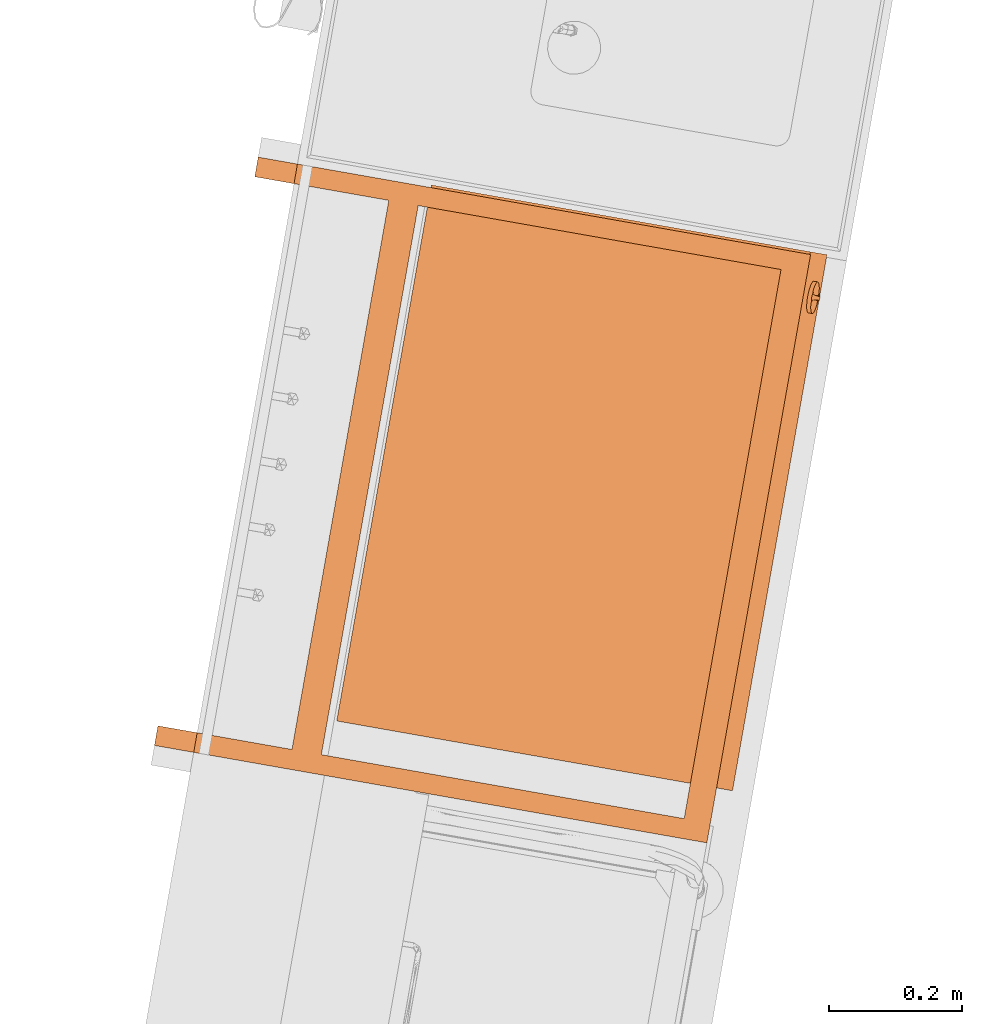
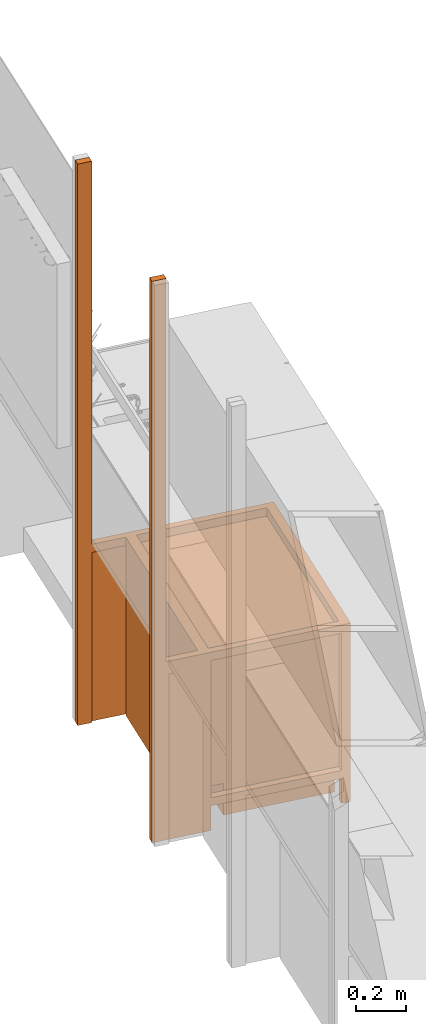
# One storey, part 39 of 43: 2 proxies.
"""IFC2X3 building model written with IfcOpenShell, lengths in metres."""

import ifcopenshell
import ifcopenshell.guid

model = None  # the IFC model being written
_history = None  # IfcOwnerHistory: only IFC2X3 demands one
_inside = {}  # id of a spatial element -> (the spatial element, [elements in it])
_under = {}  # id of a project, library or spatial element -> (it, [spatial elements below it])
_declared = {}  # id of a project -> (the project, [libraries it declares])
_typed = {}  # id of a type object -> (the type object, [elements of that type])
_made_of = {}  # id of a material, layer set ... -> (it, [elements and type objects made of it])


def new_model(schema):
    """Start an empty IFC model of exactly this schema.

    Asked for "IFC4X3", IfcOpenShell would pick the latest addendum, in which some entities
    have other attributes; the version numbers below select the first issue.
    IFC2X3 requires an IfcOwnerHistory on every rooted entity: one is made here for all.
    """
    global model, _history
    if schema == "IFC4X3":
        model = ifcopenshell.file(schema_version=(4, 3, 0, 0))
    else:
        model = ifcopenshell.file(schema=schema)
    _inside.clear()
    _under.clear()
    _declared.clear()
    _typed.clear()
    _made_of.clear()
    _history = None
    if model.schema == "IFC2X3":
        org = make("IfcOrganization", Name="unknown")
        user = make(
            "IfcPersonAndOrganization",
            ThePerson=make("IfcPerson", FamilyName="unknown"),
            TheOrganization=org,
        )
        app = make(
            "IfcApplication",
            ApplicationDeveloper=org,
            Version="unknown",
            ApplicationFullName="unknown",
            ApplicationIdentifier="unknown",
        )
        _history = make(
            "IfcOwnerHistory",
            OwningUser=user,
            OwningApplication=app,
            ChangeAction="ADDED",
            CreationDate=0,
        )
    return model


def make(cls, **values):
    """One entity of the class cls with the attributes given. An attribute that is None is left unset."""
    return model.create_entity(
        cls, **{name: value for name, value in values.items() if value is not None}
    )


def entity(cls, *values):
    """Any entity or typed value of the class cls, its attributes in the order of the schema. None: left unset."""
    e = model.create_entity(cls)
    for i, value in enumerate(values):
        if value is not None:
            e[i] = value
    return e


def rooted(cls, **values):
    """An entity with a GlobalId (a new one), such as an element, a storey or a relation."""
    return make(cls, GlobalId=ifcopenshell.guid.new(), OwnerHistory=_history, **values)


def si_unit(unit_type, name, prefix=None):
    """IfcSIUnit, for example si_unit("LENGTHUNIT", "METRE", prefix="MILLI")."""
    return make("IfcSIUnit", UnitType=unit_type, Prefix=prefix, Name=name)


def converted_unit(unit_type, name, factor, base, dimensions=None, offset=None):
    """IfcConversionBasedUnit, such as the inch: factor (a typed value) times the base unit."""
    return make(
        "IfcConversionBasedUnit"
        if offset is None
        else "IfcConversionBasedUnitWithOffset",
        ConversionOffset=offset,
        Dimensions=None
        if dimensions is None
        else entity("IfcDimensionalExponents", *dimensions),
        UnitType=unit_type,
        Name=name,
        ConversionFactor=make(
            "IfcMeasureWithUnit", ValueComponent=factor, UnitComponent=base
        ),
    )


def derived_unit(unit_type, elements):
    """IfcDerivedUnit: a product of units, each with its exponent."""
    return make(
        "IfcDerivedUnit",
        Elements=[
            make("IfcDerivedUnitElement", Unit=unit, Exponent=power)
            for unit, power in elements
        ],
        UnitType=unit_type,
    )


def assignment(units):
    """IfcUnitAssignment: the units of a project."""
    return None if units is None else make("IfcUnitAssignment", Units=units)


def point(xyz):
    """IfcCartesianPoint."""
    return None if xyz is None else make("IfcCartesianPoint", Coordinates=xyz)


def direction(xyz):
    """IfcDirection."""
    return None if xyz is None else make("IfcDirection", DirectionRatios=xyz)


def frame(location, z_axis=None, x_axis=None):
    """IfcAxis2Placement3D, a coordinate frame: its origin and axes. An axis left out is left unset."""
    return make(
        "IfcAxis2Placement3D",
        Location=point(location),
        Axis=direction(z_axis),
        RefDirection=direction(x_axis),
    )


def origin():
    """The frame at (0, 0, 0) with its axes left unset."""
    return frame((0.0, 0.0, 0.0))


def place(relative_to, where):
    """IfcLocalPlacement: puts the frame where relative to a parent placement (None: the world)."""
    return make(
        "IfcLocalPlacement", PlacementRelTo=relative_to, RelativePlacement=where
    )


def context(
    kind, dimensions, precision=None, world=None, true_north=None, identifier=None
):
    """IfcGeometricRepresentationContext, for example the 3D "Model" context."""
    return make(
        "IfcGeometricRepresentationContext",
        ContextIdentifier=identifier,
        ContextType=kind,
        CoordinateSpaceDimension=dimensions,
        Precision=precision,
        WorldCoordinateSystem=world,
        TrueNorth=true_north,
    )


def subcontext(parent, identifier, kind, view, scale=None):
    """IfcGeometricRepresentationSubContext, for example "Body" below "Model"."""
    return make(
        "IfcGeometricRepresentationSubContext",
        ContextIdentifier=identifier,
        ContextType=kind,
        ParentContext=parent,
        TargetScale=scale,
        TargetView=view,
    )


def project(units=None, contexts=None):
    """IfcProject with its units and contexts."""
    return rooted(
        "IfcProject",
        Name="project",
        RepresentationContexts=contexts,
        UnitsInContext=assignment(units),
    )


def spatial(cls, under=None, at=None, **own):
    """A site, building, storey or space (cls), placed at a placement, below another one or the project."""
    s = rooted(cls, ObjectPlacement=at, **own)
    if under is not None:
        _under.setdefault(under.id(), (under, []))[1].append(s)
    return s


def faces_of(points, faces, orient=None, outer=None):
    """IfcFace entities. A face is a list of loops; a loop is a list of indices into points, from 0.

    orient and outer hold one flag for each loop. By default every Orientation is true, the
    first loop of a face is its IfcFaceOuterBound and the others are IfcFaceBound.
    """
    made = []
    for i, loops in enumerate(faces):
        bounds = []
        for j, loop in enumerate(loops):
            is_outer = j == 0 if outer is None else outer[i][j]
            bounds.append(
                make(
                    "IfcFaceOuterBound" if is_outer else "IfcFaceBound",
                    Bound=make("IfcPolyLoop", Polygon=[points[k] for k in loop]),
                    Orientation=True if orient is None else orient[i][j],
                )
            )
        made.append(make("IfcFace", Bounds=bounds))
    return made


def faceted_brep(points, faces, orient=None, outer=None, voids=None):
    """IfcFacetedBrep: a solid bounded by flat faces; with voids (closed shells), ...WithVoids."""
    shared = [point(p) for p in points]
    hull = make("IfcClosedShell", CfsFaces=faces_of(shared, faces, orient, outer))
    if voids is None:
        return make("IfcFacetedBrep", Outer=hull)
    return make(
        "IfcFacetedBrepWithVoids",
        Outer=hull,
        Voids=[
            make(cls, CfsFaces=faces_of(shared, fs, o, b)) for cls, fs, o, b in voids
        ],
    )


def shape(context_of_items, identifier, shape_type, items):
    """IfcShapeRepresentation: the items that make up one representation, for example the "Body"."""
    return make(
        "IfcShapeRepresentation",
        ContextOfItems=context_of_items,
        RepresentationIdentifier=identifier,
        RepresentationType=shape_type,
        Items=items,
    )


def source(mapping_origin, context_of_items, identifier, shape_type, items):
    """IfcRepresentationMap: a shape defined once, which mapped items show again and again."""
    return make(
        "IfcRepresentationMap",
        MappingOrigin=mapping_origin,
        MappedRepresentation=shape(context_of_items, identifier, shape_type, items),
    )


def transform(
    local_origin,
    x_axis=None,
    y_axis=None,
    z_axis=None,
    scale=None,
    scale2=None,
    scale3=None,
    uniform=True,
):
    """IfcCartesianTransformationOperator3D, or its non-uniform kind. x_axis, y_axis, z_axis: its Axis1, 2, 3."""
    if uniform:
        return make(
            "IfcCartesianTransformationOperator3D",
            Axis1=direction(x_axis),
            Axis2=direction(y_axis),
            LocalOrigin=point(local_origin),
            Scale=scale,
            Axis3=direction(z_axis),
        )
    return make(
        "IfcCartesianTransformationOperator3DnonUniform",
        Axis1=direction(x_axis),
        Axis2=direction(y_axis),
        LocalOrigin=point(local_origin),
        Scale=scale,
        Axis3=direction(z_axis),
        Scale2=scale2,
        Scale3=scale3,
    )


def mapped(mapping_source, mapping_target):
    """IfcMappedItem: shows the shape of a source again, moved by a transform."""
    return make(
        "IfcMappedItem", MappingSource=mapping_source, MappingTarget=mapping_target
    )


def material(Name=None, Category=None):
    """IfcMaterial."""
    return make("IfcMaterial", Name=Name, Category=Category)


def material_list(materials):
    """IfcMaterialList."""
    return make("IfcMaterialList", Materials=materials)


def made_of(thing, what):
    """Note that an element or type object is made of a material, layer set ...; save() writes the relation."""
    if what is not None:
        _made_of.setdefault(what.id(), (what, []))[1].append(thing)
    return thing


def type_object(cls, material=None, **own):
    """A type object (cls), such as IfcWallType, which elements share."""
    return made_of(rooted(cls, **own), material)


def type_shapes(of_type, sources):
    """Give a type object the sources (RepresentationMaps) that its elements show as mapped items."""
    of_type.RepresentationMaps = sources


def element(
    cls,
    number,
    at=None,
    inside=None,
    cuts=None,
    type_object=None,
    material=None,
    context=None,
    identifier="Body",
    shape_type=None,
    held_by="IfcProductDefinitionShape",
    body=None,
    shapes=None,
    **own,
):
    """One element of the class cls, such as IfcWall. Its Tag is "e" and its number.

    at: its placement. inside: the storey or other place that contains it. cuts: it is an
    opening in that element (IfcRelVoidsElement). A single representation is given by context,
    identifier, shape_type and body (its items); several are given by shapes. held_by: the class
    of the entity that holds the representations. save() writes the other relations.
    """
    e = rooted(cls, Tag="e%d" % number, ObjectPlacement=at, **own)
    if body is not None:
        shapes = [shape(context, identifier, shape_type, body)]
    if shapes is not None:
        e.Representation = make(held_by, Representations=shapes)
    if inside is not None:
        _inside.setdefault(inside.id(), (inside, []))[1].append(e)
    if cuts is not None:
        rooted(
            "IfcRelVoidsElement", RelatingBuildingElement=cuts, RelatedOpeningElement=e
        )
    if type_object is not None:
        _typed.setdefault(type_object.id(), (type_object, []))[1].append(e)
    return made_of(e, material)


def aggregate(whole, parts):
    """IfcRelAggregates: a whole, such as a stair, and the parts it consists of."""
    return rooted("IfcRelAggregates", RelatingObject=whole, RelatedObjects=parts)


def save(model, path):
    """Write the relations noted so far, then the file.

    IfcRelAggregates (storeys below a building ...), IfcRelContainedInSpatialStructure (elements
    in a storey), IfcRelDefinesByType, IfcRelAssociatesMaterial and IfcRelDeclares: one each for
    every whole, place, type object, material and project.
    """
    for whole, parts in _under.values():
        aggregate(whole, parts)
    for where, things in _inside.values():
        rooted(
            "IfcRelContainedInSpatialStructure",
            RelatedElements=things,
            RelatingStructure=where,
        )
    for kind, things in _typed.values():
        rooted("IfcRelDefinesByType", RelatedObjects=things, RelatingType=kind)
    for what, things in _made_of.values():
        rooted("IfcRelAssociatesMaterial", RelatedObjects=things, RelatingMaterial=what)
    for by, libraries in _declared.values():
        rooted("IfcRelDeclares", RelatingContext=by, RelatedDefinitions=libraries)
    model.write(path)


model = new_model("IFC2X3")

# Units and contexts
model_context = context("Model", 3, precision=1e-05, world=origin(), true_north=direction((6.12303176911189e-17, 1.0)))
body_context = subcontext(model_context, "Body", "Model", "MODEL_VIEW")
ifc_project = project(units=[si_unit("LENGTHUNIT", "METRE"), si_unit("AREAUNIT", "SQUARE_METRE"), si_unit("VOLUMEUNIT", "CUBIC_METRE"), converted_unit("PLANEANGLEUNIT", "DEGREE", entity("IfcRatioMeasure", 0.0174532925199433), si_unit("PLANEANGLEUNIT", "RADIAN"), dimensions=[0, 0, 0, 0, 0, 0, 0]), si_unit("MASSUNIT", "GRAM", prefix="KILO"), derived_unit("MASSDENSITYUNIT", [(si_unit("MASSUNIT", "GRAM", prefix="KILO"), 1), (si_unit("LENGTHUNIT", "METRE"), -3)]), derived_unit("MOMENTOFINERTIAUNIT", [(si_unit("LENGTHUNIT", "METRE"), 4)]), si_unit("TIMEUNIT", "SECOND"), si_unit("FREQUENCYUNIT", "HERTZ"), si_unit("THERMODYNAMICTEMPERATUREUNIT", "DEGREE_CELSIUS"), derived_unit("THERMALTRANSMITTANCEUNIT", [(si_unit("MASSUNIT", "GRAM", prefix="KILO"), 1), (si_unit("THERMODYNAMICTEMPERATUREUNIT", "KELVIN"), -1), (si_unit("TIMEUNIT", "SECOND"), -3)]), derived_unit("VOLUMETRICFLOWRATEUNIT", [(si_unit("LENGTHUNIT", "METRE"), 3), (si_unit("TIMEUNIT", "SECOND"), -1)]), si_unit("ELECTRICCURRENTUNIT", "AMPERE"), si_unit("ELECTRICVOLTAGEUNIT", "VOLT"), si_unit("POWERUNIT", "WATT"), si_unit("FORCEUNIT", "NEWTON", prefix="KILO"), si_unit("ILLUMINANCEUNIT", "LUX"), si_unit("LUMINOUSFLUXUNIT", "LUMEN"), si_unit("LUMINOUSINTENSITYUNIT", "CANDELA"), derived_unit("USERDEFINED", [(si_unit("MASSUNIT", "GRAM", prefix="KILO"), -1), (si_unit("LENGTHUNIT", "METRE"), -2), (si_unit("TIMEUNIT", "SECOND"), 3), (si_unit("LUMINOUSFLUXUNIT", "LUMEN"), 1)]), derived_unit("LINEARVELOCITYUNIT", [(si_unit("LENGTHUNIT", "METRE"), 1), (si_unit("TIMEUNIT", "SECOND"), -1)]), si_unit("PRESSUREUNIT", "PASCAL"), derived_unit("USERDEFINED", [(si_unit("LENGTHUNIT", "METRE"), -2), (si_unit("MASSUNIT", "GRAM", prefix="KILO"), 1), (si_unit("TIMEUNIT", "SECOND"), -2)]), derived_unit("LINEARFORCEUNIT", [(si_unit("MASSUNIT", "GRAM", prefix="KILO"), 1), (si_unit("LENGTHUNIT", "METRE"), 1), (si_unit("TIMEUNIT", "SECOND"), -2), (si_unit("LENGTHUNIT", "METRE"), -1)]), derived_unit("PLANARFORCEUNIT", [(si_unit("MASSUNIT", "GRAM", prefix="KILO"), 1), (si_unit("LENGTHUNIT", "METRE"), 1), (si_unit("TIMEUNIT", "SECOND"), -2), (si_unit("LENGTHUNIT", "METRE"), -2)])], contexts=[model_context])

# Site, building, storey
site_placement = place(None, origin())
site = spatial("IfcSite", under=ifc_project, at=site_placement, Name="Default", CompositionType="ELEMENT")
building_placement = place(site_placement, origin())
building = spatial("IfcBuilding", under=site, at=building_placement, CompositionType="ELEMENT")
storey_placement = place(building_placement, frame((0.0, 0.0, 3.0)))
storey = spatial("IfcBuildingStorey", under=building, at=storey_placement, Name="01 OG", CompositionType="ELEMENT", Elevation=3.0)

# Proxies
ifc_material_1 = material(Name="dh_EZ blau")
ifc_material_2 = material(Name="Stopper")
ifc_material_3 = material(Name="dh_Weiß")
ifc_material_list_1 = material_list([ifc_material_1, ifc_material_2, ifc_material_3])
ifc_material_4 = material(Name="<Unnamed>")
ifc_material_list_2 = material_list([ifc_material_1, ifc_material_4, ifc_material_3])
building_element_proxy_type_1 = type_object("IfcBuildingElementProxyType", Name="dh_Energiezelle ST:EZ_ST90 ohne WHS WHA", PredefinedType="NOTDEFINED", material=ifc_material_list_2)
shared_shape_1 = source(origin(), body_context, "Body", "Brep", [
    faceted_brep([(0.419999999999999, 0.0600000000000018, 2.74), (0.419999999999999, 0.0, 2.74), (0.45, 0.0, 2.74), (0.45, 0.0600000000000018, 2.74), (0.419999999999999, 0.0600000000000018, 0.0), (0.419999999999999, 0.0, 0.0), (0.45, 0.0, 0.0), (0.45, 0.0600000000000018, 0.0)], [[[0, 1, 2, 3]], [[1, 0, 4, 5]], [[2, 1, 5, 6]], [[3, 2, 6, 7]], [[0, 3, 7, 4]], [[4, 7, 6, 5]]]),
    faceted_brep([(-0.42, 0.0600000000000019, 0.0), (-0.42, 0.0, 0.0), (-0.45, 0.0, 0.0), (-0.45, 0.0600000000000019, 0.0), (-0.45, 0.0600000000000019, 2.74), (-0.42, 0.0600000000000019, 2.74), (-0.45, 0.0, 2.74), (-0.42, 0.0, 2.74)], [[[0, 1, 2, 3]], [[4, 5, 0, 3]], [[6, 4, 3, 2]], [[7, 6, 2, 1]], [[5, 7, 1, 0]], [[5, 4, 6, 7]]]),
    faceted_brep([(-0.449999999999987, -0.150000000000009, 0.01), (-0.449999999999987, -0.190000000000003, 0.01), (-0.420000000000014, -0.190000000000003, 0.01), (-0.420000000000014, -0.150000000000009, 0.01), (-0.449999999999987, -0.150000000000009, 0.0), (-0.449999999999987, -0.190000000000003, 0.0), (-0.420000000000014, -0.190000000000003, 0.0), (-0.420000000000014, -0.150000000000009, 0.0)], [[[0, 1, 2, 3]], [[1, 0, 4, 5]], [[2, 1, 5, 6]], [[3, 2, 6, 7]], [[0, 3, 7, 4]], [[4, 7, 6, 5]]]),
    faceted_brep([(-0.449999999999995, -0.74500000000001, 0.0), (-0.42000000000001, -0.74500000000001, 0.0), (-0.42000000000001, -0.785000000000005, 0.0), (-0.449999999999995, -0.785000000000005, 0.0), (-0.449999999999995, -0.785000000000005, 0.01), (-0.449999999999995, -0.74500000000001, 0.01), (-0.42000000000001, -0.785000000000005, 0.01), (-0.42000000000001, -0.74500000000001, 0.01)], [[[0, 1, 2, 3]], [[4, 5, 0, 3]], [[6, 4, 3, 2]], [[7, 6, 2, 1]], [[5, 7, 1, 0]], [[5, 4, 6, 7]]]),
    faceted_brep([(0.419999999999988, -0.190000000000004, 0.01), (0.419999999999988, -0.150000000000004, 0.01), (0.419999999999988, -0.150000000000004, 0.0), (0.419999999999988, -0.190000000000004, 0.0), (0.450000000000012, -0.190000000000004, 0.01), (0.450000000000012, -0.190000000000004, 0.0), (0.450000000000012, -0.150000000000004, 0.01), (0.450000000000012, -0.150000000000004, 0.0)], [[[0, 1, 2, 3]], [[4, 0, 3, 5]], [[6, 4, 5, 7]], [[1, 6, 7, 2]], [[2, 7, 5, 3]], [[1, 0, 4, 6]]]),
    faceted_brep([(0.419999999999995, -0.784999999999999, 0.01), (0.419999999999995, -0.744999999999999, 0.01), (0.419999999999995, -0.744999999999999, 0.0), (0.419999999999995, -0.784999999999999, 0.0), (0.450000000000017, -0.784999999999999, 0.01), (0.450000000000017, -0.784999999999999, 0.0), (0.450000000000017, -0.744999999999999, 0.01), (0.450000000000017, -0.744999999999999, 0.0)], [[[0, 1, 2, 3]], [[4, 0, 3, 5]], [[6, 4, 5, 7]], [[1, 6, 7, 2]], [[2, 7, 5, 3]], [[1, 0, 4, 6]]]),
    faceted_brep([(0.419999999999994, -0.150000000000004, 0.87), (0.419999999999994, -0.145000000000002, 0.87), (-0.420000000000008, -0.145000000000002, 0.87), (-0.420000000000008, -0.150000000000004, 0.87), (0.419999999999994, -0.150000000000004, 0.0), (-0.420000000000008, -0.150000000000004, 0.0), (-0.420000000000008, -0.145000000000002, 0.0), (0.419999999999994, -0.145000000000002, 0.0)], [[[0, 1, 2, 3]], [[4, 5, 6, 7]], [[0, 3, 5, 4]], [[3, 2, 6, 5]], [[2, 1, 7, 6]], [[1, 0, 4, 7]]]),
    faceted_brep([(-0.450000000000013, 0.0, 0.830000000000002), (-0.450000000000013, -0.150000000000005, 0.830000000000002), (-0.430000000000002, -0.150000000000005, 0.830000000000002), (-0.430000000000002, 0.0, 0.830000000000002), (-0.450000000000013, 0.0, 0.0), (-0.430000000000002, 0.0, 0.0), (-0.430000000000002, -0.150000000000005, 0.0), (-0.450000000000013, -0.150000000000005, 0.0)], [[[0, 1, 2, 3]], [[4, 5, 6, 7]], [[1, 0, 4, 7]], [[2, 1, 7, 6]], [[3, 2, 6, 5]], [[0, 3, 5, 4]]]),
    faceted_brep([(0.429999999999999, -0.150000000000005, 0.830000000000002), (0.429999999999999, 0.0, 0.830000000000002), (0.429999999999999, 0.0, 0.0), (0.429999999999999, -0.150000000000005, 0.0), (0.45, -0.150000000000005, 0.830000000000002), (0.45, -0.150000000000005, 0.0), (0.45, 0.0, 0.830000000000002), (0.45, 0.0, 0.0)], [[[0, 1, 2, 3]], [[4, 0, 3, 5]], [[6, 4, 5, 7]], [[1, 6, 7, 2]], [[2, 7, 5, 3]], [[1, 0, 4, 6]]]),
    faceted_brep([(-0.420000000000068, 0.0, 0.870000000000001), (-0.45000000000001, 0.0, 0.870000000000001), (-0.449999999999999, -0.784999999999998, 0.870000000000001), (0.449999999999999, -0.784999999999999, 0.869999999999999), (0.44999999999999, 0.0, 0.869999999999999), (0.419999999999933, 0.0, 0.869999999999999), (0.419999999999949, -0.150000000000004, 0.869999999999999), (-0.420000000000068, -0.150000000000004, 0.870000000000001), (-0.420000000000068, -0.744999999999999, 0.870000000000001), (-0.420000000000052, -0.190000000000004, 0.870000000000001), (0.419999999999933, -0.190000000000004, 0.869999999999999), (0.419999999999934, -0.744999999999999, 0.869999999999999), (-0.45000000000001, 0.0, 0.830000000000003), (-0.420000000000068, 0.0, 0.830000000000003), (-0.420000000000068, -0.150000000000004, 0.830000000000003), (-0.45000000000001, -0.150000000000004, 0.830000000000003), (-0.450000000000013, -0.150000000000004, 0.00999999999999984), (-0.450000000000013, -0.190000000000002, 0.00999999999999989), (-0.45000000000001, -0.190000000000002, 0.830000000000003), (-0.45000000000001, -0.744999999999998, 0.830000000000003), (-0.450000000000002, -0.744999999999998, 0.00999999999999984), (-0.450000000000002, -0.784999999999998, 0.00999999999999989), (0.419999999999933, 0.0, 0.83), (0.419999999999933, -0.150000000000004, 0.83), (0.44999999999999, 0.0, 0.83), (0.449999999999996, -0.784999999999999, 0.00999999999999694), (0.449999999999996, -0.744999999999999, 0.00999999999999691), (0.44999999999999, -0.744999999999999, 0.83), (0.44999999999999, -0.190000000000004, 0.83), (0.449999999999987, -0.190000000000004, 0.00999999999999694), (0.449999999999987, -0.150000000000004, 0.00999999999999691), (0.44999999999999, -0.150000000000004, 0.83), (-0.420000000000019, -0.150000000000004, 0.00999999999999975), (-0.420000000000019, -0.190000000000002, 0.00999999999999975), (-0.420000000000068, -0.190000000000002, 0.830000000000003), (0.419999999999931, -0.150000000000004, 0.00999999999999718), (0.419999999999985, -0.190000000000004, 0.00999999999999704), (0.419999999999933, -0.190000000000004, 0.83), (-0.420000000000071, -0.744999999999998, 0.00999999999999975), (-0.420000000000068, -0.744999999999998, 0.830000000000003), (-0.420000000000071, -0.784999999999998, 0.00999999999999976), (-0.420000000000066, -0.784999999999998, 0.830000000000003), (0.419999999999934, -0.784999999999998, 0.83), (0.419999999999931, -0.784999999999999, 0.00999999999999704), (0.419999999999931, -0.744999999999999, 0.00999999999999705), (0.419999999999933, -0.744999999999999, 0.83)], [[[0, 1, 2, 3, 4, 5, 6, 7], [8, 9, 10, 11]], [[12, 13, 14, 15]], [[1, 0, 13, 12]], [[1, 12, 15, 16, 17, 18, 19, 20, 21, 2]], [[13, 0, 7, 14]], [[5, 22, 23, 6]], [[24, 4, 3, 25, 26, 27, 28, 29, 30, 31]], [[5, 4, 24, 22]], [[32, 33, 17, 16]], [[32, 16, 15, 14]], [[17, 33, 34, 18]], [[30, 35, 23, 31]], [[36, 29, 28, 37]], [[38, 20, 19, 39]], [[3, 2, 21, 40, 41, 42, 43, 25]], [[26, 44, 45, 27]], [[42, 41, 39, 45]], [[7, 6, 23, 14]], [[10, 9, 34, 37]], [[8, 11, 45, 39]], [[37, 34, 14, 23]], [[38, 40, 21, 20]], [[30, 29, 36, 35]], [[26, 25, 43, 44]], [[37, 45, 11, 10]], [[35, 36, 37, 23]], [[44, 43, 42, 45]], [[39, 34, 9, 8]], [[40, 38, 39, 41]], [[33, 32, 14, 34]], [[34, 39, 19, 18]], [[22, 24, 31, 23]], [[28, 27, 45, 37]]]),
    faceted_brep([(0.419999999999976, -0.170000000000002, 0.16), (-0.420000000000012, -0.170000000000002, 0.160000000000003), (-0.420000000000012, -0.190000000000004, 0.160000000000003), (0.419999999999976, -0.190000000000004, 0.16), (0.419999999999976, -0.170000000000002, 0.12), (0.419999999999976, -0.190000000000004, 0.12), (-0.420000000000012, -0.190000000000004, 0.120000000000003), (-0.420000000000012, -0.170000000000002, 0.120000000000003)], [[[0, 1, 2, 3]], [[4, 5, 6, 7]], [[1, 0, 4, 7]], [[2, 1, 7, 6]], [[3, 2, 6, 5]], [[0, 3, 5, 4]]]),
    faceted_brep([(0.419999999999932, -0.190000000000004, 0.16), (0.419999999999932, -0.744999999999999, 0.16), (0.449999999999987, -0.744999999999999, 0.16), (0.449999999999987, -0.190000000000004, 0.16), (0.419999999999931, -0.190000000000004, 0.12), (0.419999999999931, -0.744999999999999, 0.12), (0.449999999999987, -0.744999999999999, 0.12), (0.449999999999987, -0.190000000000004, 0.12)], [[[0, 1, 2, 3]], [[1, 0, 4, 5]], [[2, 1, 5, 6]], [[3, 2, 6, 7]], [[0, 3, 7, 4]], [[4, 7, 6, 5]]]),
    faceted_brep([(-0.42000000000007, -0.190000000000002, 0.120000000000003), (-0.42000000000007, -0.744999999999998, 0.120000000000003), (-0.450000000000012, -0.744999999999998, 0.120000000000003), (-0.450000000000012, -0.190000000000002, 0.120000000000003), (-0.450000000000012, -0.190000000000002, 0.160000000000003), (-0.42000000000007, -0.190000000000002, 0.160000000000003), (-0.450000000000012, -0.744999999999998, 0.160000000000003), (-0.42000000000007, -0.744999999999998, 0.160000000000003)], [[[0, 1, 2, 3]], [[4, 5, 0, 3]], [[6, 4, 3, 2]], [[7, 6, 2, 1]], [[5, 7, 1, 0]], [[5, 4, 6, 7]]]),
])
type_shapes(building_element_proxy_type_1, [shared_shape_1])
proxy_1_placement = place(storey_placement, frame((22.8477107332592, 11.1142473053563, 0.0), z_axis=(0.0, 0.0, 1.0), x_axis=(0.173648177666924, 0.984807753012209, 0.0)))
element("IfcBuildingElementProxy", 1, at=proxy_1_placement, inside=storey, type_object=building_element_proxy_type_1, material=ifc_material_list_1, Name="dh_Energiezelle ST:EZ_ST90 ohne WHS WHA", ObjectType="dh_Energiezelle ST:EZ_ST90 ohne WHS WHA", context=body_context, shape_type="MappedRepresentation", body=[
    mapped(shared_shape_1, transform((0.0, 0.0, 0.0), scale=1.0)),
])
ifc_material_5 = material(Name="Metal - Stainless Steel - Miele - Satin")
ifc_material_6 = material(Name="Plastic - Miele - Black")
ifc_material_7 = material(Name="Metal - Steel - Miele - Galvanized")
ifc_material_list_3 = material_list([ifc_material_5, ifc_material_6, ifc_material_7])
ifc_material_list_4 = material_list([ifc_material_7, ifc_material_5, ifc_material_6])
building_element_proxy_type_2 = type_object("IfcBuildingElementProxyType", Name="dh_UB_Spülmaschine:SP 90", PredefinedType="NOTDEFINED", material=ifc_material_list_4)
shared_shape_2 = source(origin(), body_context, "Body", "Brep", [
    faceted_brep([(0.336597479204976, -0.314120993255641, 0.701199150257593), (0.338888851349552, -0.313922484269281, 0.700529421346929), (0.337655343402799, -0.314374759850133, 0.702076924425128), (0.336658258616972, -0.314339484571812, 0.701950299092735), (0.334824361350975, -0.31427460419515, 0.701717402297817), (0.339866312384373, -0.316103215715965, 0.713703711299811), (0.339063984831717, -0.314982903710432, 0.704541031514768), (0.347140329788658, -0.314982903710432, 0.704541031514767), (0.346338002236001, -0.316103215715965, 0.713703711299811), (0.340255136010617, -0.315475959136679, 0.722964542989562), (0.345949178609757, -0.315475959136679, 0.722964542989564), (0.349606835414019, -0.314120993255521, 0.70119915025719), (0.351379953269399, -0.31427460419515, 0.701717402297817), (0.349546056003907, -0.314339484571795, 0.701950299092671), (0.348548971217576, -0.314374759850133, 0.702076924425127), (0.347315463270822, -0.313922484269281, 0.700529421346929), (0.343102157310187, -0.313795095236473, 0.700124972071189), (0.339260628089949, -0.30465429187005, 0.743543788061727), (0.33779747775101, -0.304170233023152, 0.745843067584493), (0.335046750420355, -0.304106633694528, 0.746145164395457), (0.329746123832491, -0.304650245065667, 0.743563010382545), (0.325243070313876, -0.305443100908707, 0.739796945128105), (0.321809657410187, -0.306437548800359, 0.735073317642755), (0.319651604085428, -0.307573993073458, 0.729675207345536), (0.318898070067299, -0.308784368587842, 0.723925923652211), (0.319594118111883, -0.309996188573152, 0.718169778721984), (0.321698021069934, -0.311136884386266, 0.712751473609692), (0.325083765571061, -0.31213814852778, 0.707995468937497), (0.329548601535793, -0.312940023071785, 0.704186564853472), (0.334824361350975, -0.313494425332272, 0.701553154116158), (0.337577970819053, -0.31343635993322, 0.701828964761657), (0.339063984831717, -0.312955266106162, 0.704114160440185), (0.340279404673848, -0.308805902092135, 0.723823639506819), (0.345924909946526, -0.308805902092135, 0.723823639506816), (0.347140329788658, -0.312955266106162, 0.704114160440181), (0.348626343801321, -0.31343635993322, 0.701828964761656), (0.351379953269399, -0.313494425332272, 0.701553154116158), (0.356655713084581, -0.312940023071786, 0.704186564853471), (0.361120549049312, -0.312138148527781, 0.707995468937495), (0.36450629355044, -0.311136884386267, 0.712751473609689), (0.366610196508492, -0.309996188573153, 0.718169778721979), (0.367306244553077, -0.308784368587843, 0.723925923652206), (0.366552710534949, -0.307573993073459, 0.729675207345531), (0.364394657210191, -0.306437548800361, 0.73507331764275), (0.360961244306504, -0.305443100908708, 0.7397969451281), (0.35645819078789, -0.304650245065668, 0.743563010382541), (0.351157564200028, -0.304106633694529, 0.746145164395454), (0.348406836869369, -0.304170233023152, 0.745843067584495), (0.346943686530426, -0.30465429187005, 0.743543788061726), (0.340279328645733, -0.315022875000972, 0.725116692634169), (0.345924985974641, -0.315022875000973, 0.725116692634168), (0.345927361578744, -0.314569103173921, 0.727272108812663), (0.34027695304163, -0.314569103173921, 0.727272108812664), (0.366610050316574, -0.303782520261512, 0.716861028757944), (0.364505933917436, -0.30492323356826, 0.711442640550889), (0.361119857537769, -0.305924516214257, 0.706686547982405), (0.356654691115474, -0.306726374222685, 0.702877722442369), (0.351379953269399, -0.307280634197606, 0.700244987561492), (0.347304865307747, -0.307505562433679, 0.699176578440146), (0.343102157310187, -0.307581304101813, 0.698816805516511), (0.338899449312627, -0.307505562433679, 0.699176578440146), (0.334824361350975, -0.307280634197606, 0.700244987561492), (0.3295496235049, -0.306726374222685, 0.70287772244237), (0.325084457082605, -0.305924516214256, 0.706686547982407), (0.321698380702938, -0.30492323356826, 0.711442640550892), (0.319594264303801, -0.303782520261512, 0.716861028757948), (0.318898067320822, -0.302570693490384, 0.722617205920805), (0.319651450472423, -0.301360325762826, 0.728366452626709), (0.321809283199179, -0.300223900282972, 0.733764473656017), (0.325242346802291, -0.299229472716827, 0.738488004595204), (0.32974507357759, -0.29843659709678, 0.742254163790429), (0.335046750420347, -0.297892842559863, 0.744836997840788), (0.339015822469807, -0.297680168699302, 0.745847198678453), (0.343102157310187, -0.297608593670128, 0.746187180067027), (0.347188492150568, -0.297680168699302, 0.745847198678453), (0.351157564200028, -0.297892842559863, 0.744836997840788), (0.356459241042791, -0.298436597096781, 0.742254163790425), (0.360961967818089, -0.299229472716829, 0.738488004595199), (0.364395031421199, -0.300223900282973, 0.733764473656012), (0.366552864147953, -0.301360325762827, 0.728366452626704), (0.367306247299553, -0.302570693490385, 0.7226172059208), (0.346225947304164, -0.311401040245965, 0.736017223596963), (0.346943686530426, -0.306664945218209, 0.743967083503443), (0.348328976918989, -0.305103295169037, 0.745987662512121), (0.351157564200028, -0.304845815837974, 0.746300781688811), (0.349374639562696, -0.305008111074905, 0.746103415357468), (0.343102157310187, -0.303822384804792, 0.747495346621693), (0.347198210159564, -0.304086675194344, 0.747194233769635), (0.349424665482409, -0.304513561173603, 0.746691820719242), (0.339006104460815, -0.304086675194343, 0.747194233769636), (0.335046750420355, -0.304845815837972, 0.746300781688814), (0.336779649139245, -0.304513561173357, 0.746691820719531), (0.337876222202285, -0.305103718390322, 0.745987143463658), (0.336829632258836, -0.305008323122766, 0.746103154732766), (0.339260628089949, -0.306664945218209, 0.743967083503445), (0.33997836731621, -0.311401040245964, 0.736017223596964)], [[[0, 1, 2, 3, 4]], [[5, 6, 7, 8]], [[9, 5, 8, 10]], [[11, 12, 13, 14, 15]], [[6, 16, 7]], [[1, 16, 6]], [[15, 14, 7]], [[16, 15, 7]], [[6, 2, 1]], [[17, 18, 19, 20, 21, 22, 23, 24, 25, 26, 27, 28, 29, 30, 31, 32]], [[33, 34, 35, 36, 37, 38, 39, 40, 41, 42, 43, 44, 45, 46, 47, 48]], [[49, 9, 10, 50, 51, 52]], [[53, 54, 55, 56, 57, 58, 59, 60, 61, 62, 63, 64, 65, 66, 67, 68, 69, 70, 71, 72, 73, 74, 75, 76, 77, 78, 79, 80]], [[8, 50, 10]], [[33, 8, 7]], [[33, 7, 34]], [[50, 8, 81]], [[8, 33, 81]], [[48, 82, 33]], [[81, 33, 82]], [[51, 50, 81]], [[48, 83, 82]], [[47, 83, 48]], [[46, 84, 47]], [[47, 84, 85, 83]], [[46, 75, 74]], [[86, 74, 73]], [[87, 74, 86]], [[46, 87, 88, 84]], [[87, 46, 74]], [[86, 72, 89]], [[19, 72, 71]], [[19, 90, 91, 89]], [[19, 89, 72]], [[72, 86, 73]], [[19, 18, 90]], [[18, 92, 93, 90]], [[17, 94, 92]], [[18, 17, 92]], [[5, 95, 32]], [[17, 32, 94]], [[95, 94, 32]], [[49, 52, 95]], [[5, 9, 49]], [[6, 32, 31]], [[6, 5, 32]], [[5, 49, 95]], [[31, 2, 6]], [[30, 2, 31]], [[29, 4, 30]], [[30, 4, 3, 2]], [[29, 61, 60]], [[16, 60, 59]], [[1, 60, 16]], [[29, 1, 0, 4]], [[1, 29, 60]], [[16, 58, 15]], [[36, 58, 57]], [[36, 12, 11, 15]], [[36, 15, 58]], [[58, 16, 59]], [[36, 35, 12]], [[35, 14, 13, 12]], [[34, 7, 14]], [[35, 34, 14]], [[86, 82, 87]], [[89, 94, 86]], [[87, 83, 85, 84, 88]], [[82, 83, 87]], [[91, 90, 93, 92, 89]], [[94, 95, 81, 82]], [[94, 82, 86]], [[52, 51, 81, 95]], [[94, 89, 92]], [[36, 57, 56]], [[38, 55, 54]], [[56, 55, 37]], [[54, 53, 39]], [[55, 38, 37]], [[37, 36, 56]], [[53, 40, 39]], [[39, 38, 54]], [[40, 80, 41]], [[53, 80, 40]], [[42, 79, 78]], [[44, 77, 76]], [[78, 77, 43]], [[76, 75, 45]], [[78, 43, 42]], [[42, 41, 79]], [[76, 45, 44]], [[44, 43, 77]], [[75, 46, 45]], [[79, 41, 80]], [[20, 71, 70]], [[22, 69, 68]], [[70, 69, 21]], [[68, 67, 23]], [[70, 21, 20]], [[20, 19, 71]], [[68, 23, 22]], [[22, 21, 69]], [[67, 24, 23]], [[67, 66, 24]], [[25, 66, 65]], [[27, 64, 63]], [[65, 64, 26]], [[63, 62, 28]], [[64, 27, 26]], [[26, 25, 65]], [[62, 29, 28]], [[28, 27, 63]], [[62, 61, 29]], [[66, 25, 24]]]),
    faceted_brep([(-0.397299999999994, -0.312783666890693, 0.674105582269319), (0.397300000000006, -0.312783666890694, 0.67410558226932), (0.397300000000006, -0.292616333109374, 0.769900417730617), (-0.397299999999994, -0.292616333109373, 0.769900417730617), (-0.397299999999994, -0.306569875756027, 0.672797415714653), (-0.397299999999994, -0.286402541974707, 0.768592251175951), (0.397300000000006, -0.286402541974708, 0.768592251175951), (0.397300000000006, -0.306569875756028, 0.672797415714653)], [[[0, 1, 2, 3]], [[4, 5, 6, 7]], [[1, 0, 4, 7]], [[2, 1, 7, 6]], [[3, 2, 6, 5]], [[0, 3, 5, 4]]]),
    faceted_brep([(0.410000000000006, -0.26460000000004, 0.782327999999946), (0.410000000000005, -0.290000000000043, 0.782327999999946), (0.410000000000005, -0.315400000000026, 0.661677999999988), (0.410000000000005, -0.315400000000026, 0.642627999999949), (0.410000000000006, -0.26460000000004, 0.642627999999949), (-0.409999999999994, -0.264600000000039, 0.782327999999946), (-0.409999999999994, -0.264600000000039, 0.642627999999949), (-0.409999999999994, -0.315400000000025, 0.642627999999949), (-0.409999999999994, -0.315400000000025, 0.661677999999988), (-0.409999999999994, -0.290000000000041, 0.782327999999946), (-0.397299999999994, -0.312783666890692, 0.67410558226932), (-0.397299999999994, -0.292616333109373, 0.769900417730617), (0.397300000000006, -0.292616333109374, 0.769900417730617), (0.397300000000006, -0.312783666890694, 0.67410558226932), (-0.397299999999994, -0.306569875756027, 0.672797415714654), (0.397300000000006, -0.306569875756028, 0.672797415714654), (0.397300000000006, -0.286402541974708, 0.768592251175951), (-0.397299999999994, -0.286402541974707, 0.768592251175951)], [[[0, 1, 2, 3, 4]], [[5, 6, 7, 8, 9]], [[1, 0, 5, 9]], [[2, 1, 9, 8], [10, 11, 12, 13]], [[3, 2, 8, 7]], [[4, 3, 7, 6]], [[0, 4, 6, 5]], [[14, 15, 16, 17]], [[14, 17, 11, 10]], [[17, 16, 12, 11]], [[16, 15, 13, 12]], [[15, 14, 10, 13]]]),
    faceted_brep([(0.410000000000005, -0.290000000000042, 0.642627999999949), (0.410000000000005, -0.290000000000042, 0.0999999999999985), (0.410000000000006, -0.26460000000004, 0.0999999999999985), (0.410000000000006, -0.26460000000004, 0.642627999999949), (-0.409999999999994, -0.290000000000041, 0.642627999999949), (-0.409999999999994, -0.264600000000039, 0.642627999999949), (-0.409999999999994, -0.264600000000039, 0.0999999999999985), (-0.409999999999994, -0.290000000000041, 0.0999999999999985)], [[[0, 1, 2, 3]], [[4, 5, 6, 7]], [[1, 0, 4, 7]], [[2, 1, 7, 6]], [[3, 2, 6, 5]], [[0, 3, 5, 4]]]),
    faceted_brep([(0.410000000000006, 0.220149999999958, 0.154940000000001), (0.410000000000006, 0.289999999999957, 0.154940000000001), (0.410000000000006, 0.289999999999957, 0.795028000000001), (0.410000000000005, -0.26460000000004, 0.795028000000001), (0.410000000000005, -0.26460000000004, 0.0999999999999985), (0.410000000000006, -0.251900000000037, 0.0999999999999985), (0.410000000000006, -0.251900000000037, 0.0), (0.410000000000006, 0.220149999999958, 0.0), (-0.409999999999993, 0.220149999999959, 0.154940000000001), (-0.409999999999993, 0.220149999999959, 0.0), (-0.409999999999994, -0.251900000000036, 0.0), (-0.409999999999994, -0.251900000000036, 0.0999999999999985), (-0.409999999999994, -0.264600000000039, 0.0999999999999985), (-0.409999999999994, -0.264600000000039, 0.795028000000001), (-0.409999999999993, 0.289999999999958, 0.795028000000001), (-0.409999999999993, 0.289999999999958, 0.154940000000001)], [[[0, 1, 2, 3, 4, 5, 6, 7]], [[8, 9, 10, 11, 12, 13, 14, 15]], [[1, 0, 8, 15]], [[2, 1, 15, 14]], [[3, 2, 14, 13]], [[4, 3, 13, 12]], [[5, 4, 12, 11]], [[6, 5, 11, 10]], [[7, 6, 10, 9]], [[0, 7, 9, 8]]]),
    faceted_brep([(0.409999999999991, 0.28999999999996, 0.824999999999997), (-0.409999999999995, 0.28999999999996, 0.825), (-0.409999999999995, -0.290000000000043, 0.825), (0.409999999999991, -0.290000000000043, 0.824999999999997), (0.409999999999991, 0.28999999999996, 0.795027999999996), (0.409999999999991, -0.290000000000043, 0.795027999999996), (-0.409999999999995, -0.290000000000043, 0.795027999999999), (-0.409999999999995, 0.28999999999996, 0.795027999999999)], [[[0, 1, 2, 3]], [[4, 5, 6, 7]], [[1, 0, 4, 7]], [[2, 1, 7, 6]], [[3, 2, 6, 5]], [[0, 3, 5, 4]]]),
])
type_shapes(building_element_proxy_type_2, [shared_shape_2])
proxy_2_placement = place(storey_placement, frame((23.3418462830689, 11.0717966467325, 0.0), z_axis=(0.0, 0.0, 1.0), x_axis=(0.173648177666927, 0.984807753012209, 0.0)))
element("IfcBuildingElementProxy", 2, at=proxy_2_placement, inside=storey, type_object=building_element_proxy_type_2, material=ifc_material_list_3, Name="dh_UB_Spülmaschine:SP 90", ObjectType="dh_UB_Spülmaschine:SP 90", context=body_context, shape_type="MappedRepresentation", body=[
    mapped(shared_shape_2, transform((0.0, 0.0, 0.0), scale=1.0)),
])

save(model, "model.ifc")
